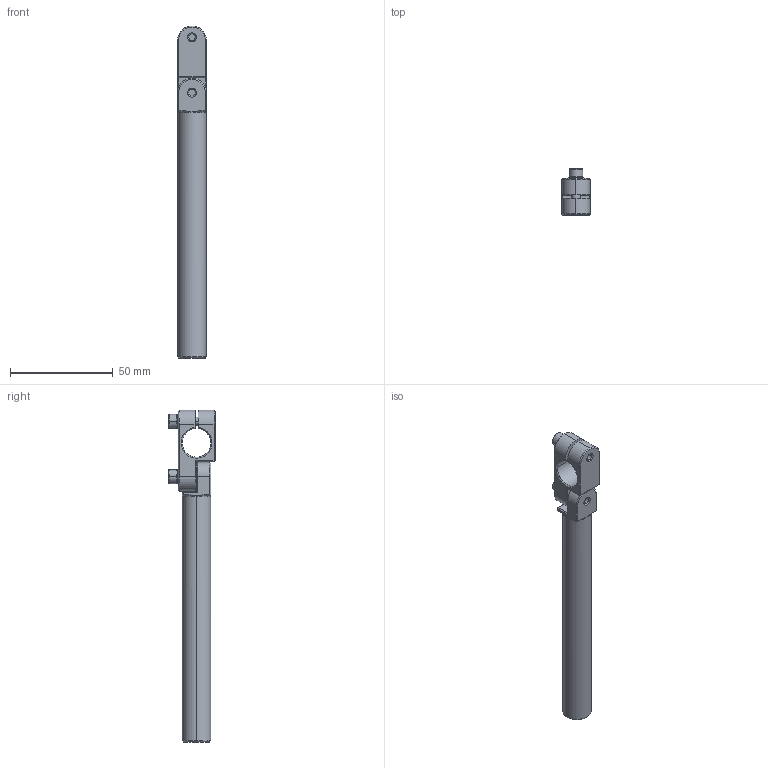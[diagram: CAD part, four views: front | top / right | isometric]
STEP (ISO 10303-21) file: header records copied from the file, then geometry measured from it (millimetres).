
FILE_DESCRIPTION (( 'STEP AP214' ), '1' );
FILE_NAME ('SEA-1414L120T.STEP', '2023-02-01T07:58:22', ( 'Windows User' ), ( 'P R C' ), 'SwSTEP 2.0', 'SolidWorks 2019', '' );
FILE_SCHEMA (( 'AUTOMOTIVE_DESIGN' ));
Length unit declared in the file: millimetre
Products named in the file (5): SEA-1414L120.1; SEA-1414L120.2; PTS-M4; PTC-M4L14; SEA-1414L120T
Assembly tree (6 placements, depth 2):
  SEA-1414L120T
    SEA-1414L120.1
    SEA-1414L120.2
    PTC-M4L14  x2
    PTS-M4  x2
Bounding box: 14 x 22.45 x 161.8 mm (x, y, z)
Volume: 17272.8 mm3; surface area: 13585.1 mm2
Topology: 6 solids, 6 shells, 499 faces, 1374 edges, 872 vertices
Faces by surface type: plane 394, cone 39, cylinder 38, bspline 24, torus 4
Entity records: 11374 total; most frequent: CARTESIAN_POINT 3344, ORIENTED_EDGE 1648, DIRECTION 1632, EDGE_CURVE 824, AXIS2_PLACEMENT_3D 568, VERTEX_POINT 518, VECTOR 496, LINE 496
